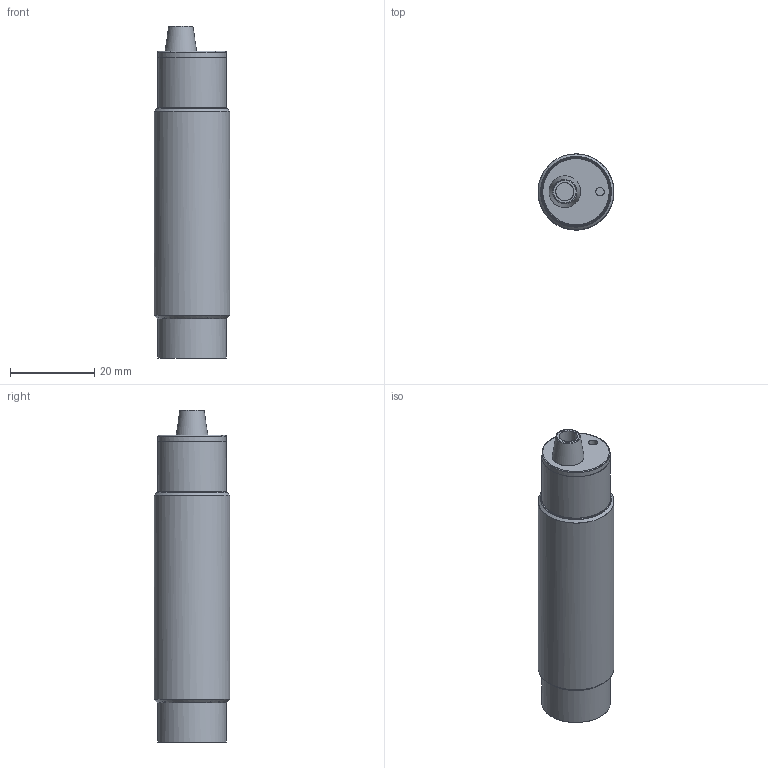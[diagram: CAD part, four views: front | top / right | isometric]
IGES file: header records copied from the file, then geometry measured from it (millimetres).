
Global section: file name: D:\dd\DSD-0330.igs; preprocessor: I-DEAS 3D IGES Translator 13; date: 20100122.165252; units: millimetre
Bounding box: 17.99 x 17.99 x 78.7 mm (x, y, z)
Surface area: 9993.7 mm2 (no closed solid volume)
Topology: 0 solids, 0 shells, 25 faces, 182 edges, 149 vertices
Faces by surface type: bspline 25
